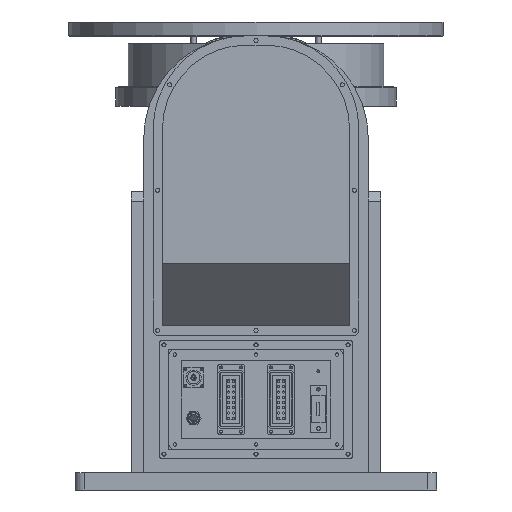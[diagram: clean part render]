
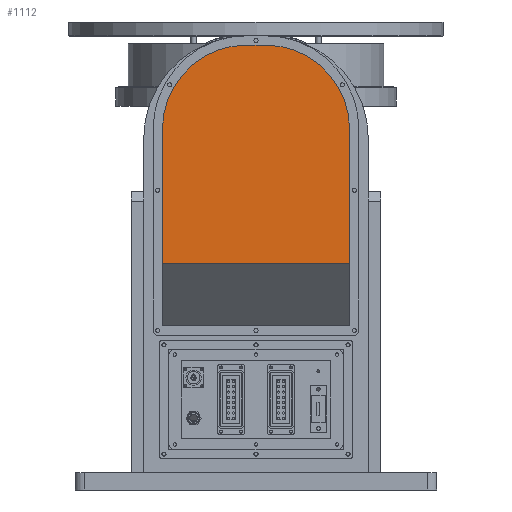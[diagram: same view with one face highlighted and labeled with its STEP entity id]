
A CAD part, left-side view. The second image highlights one B-rep face of the part: STEP entity #1112.
In plain terms, the highlighted planar face has unit normal (-1, 0, 0).
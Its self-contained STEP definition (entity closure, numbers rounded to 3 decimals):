
#87 = CIRCLE ( 'NONE', #13991, 135. ) ;
#1112 = ADVANCED_FACE ( 'NONE', ( #10183 ), #9286, .T. ) ;
#2175 = DIRECTION ( 'NONE',  ( -1., 0., 0. ) ) ;
#2719 = ORIENTED_EDGE ( 'NONE', *, *, #12111, .T. ) ;
#2913 = CARTESIAN_POINT ( 'NONE',  ( -479.864, -380.096, 1109. ) ) ;
#3139 = DIRECTION ( 'NONE',  ( 0., -1., 0. ) ) ;
#3248 = AXIS2_PLACEMENT_3D ( 'NONE', #8260, #18112, #9661 ) ;
#3476 = EDGE_CURVE ( 'NONE', #12920, #17007, #11227, .T. ) ;
#3683 = DIRECTION ( 'NONE',  ( 0., -1., 0. ) ) ;
#3723 = DIRECTION ( 'NONE',  ( -1., 0., 0. ) ) ;
#3737 = VECTOR ( 'NONE', #3139, 1000. ) ;
#3751 = VERTEX_POINT ( 'NONE', #7892 ) ;
#4060 = VERTEX_POINT ( 'NONE', #13248 ) ;
#4083 = DIRECTION ( 'NONE',  ( 0., 0., -1. ) ) ;
#4603 = DIRECTION ( 'NONE',  ( 0., 1., 0. ) ) ;
#5082 = AXIS2_PLACEMENT_3D ( 'NONE', #10702, #2175, #3683 ) ;
#5239 = LINE ( 'NONE', #18120, #8095 ) ;
#5851 = ORIENTED_EDGE ( 'NONE', *, *, #10666, .T. ) ;
#7282 = CARTESIAN_POINT ( 'NONE',  ( -479.864, -380.096, 759. ) ) ;
#7642 = CARTESIAN_POINT ( 'NONE',  ( -479.864, -380.096, 974. ) ) ;
#7892 = CARTESIAN_POINT ( 'NONE',  ( -479.864, -215.096, 1109. ) ) ;
#8095 = VECTOR ( 'NONE', #4083, 1000. ) ;
#8260 = CARTESIAN_POINT ( 'NONE',  ( -479.864, -245.096, 974. ) ) ;
#8511 = VECTOR ( 'NONE', #12786, 1000. ) ;
#8561 = VERTEX_POINT ( 'NONE', #14961 ) ;
#8825 = EDGE_CURVE ( 'NONE', #17007, #17873, #9392, .T. ) ;
#9156 = EDGE_CURVE ( 'NONE', #17873, #4060, #13123, .T. ) ;
#9264 = CARTESIAN_POINT ( 'NONE',  ( -479.864, -80.096, 759. ) ) ;
#9286 = PLANE ( 'NONE',  #5082 ) ;
#9392 = LINE ( 'NONE', #2913, #8511 ) ;
#9661 = DIRECTION ( 'NONE',  ( 0., -1., 0. ) ) ;
#9742 = ORIENTED_EDGE ( 'NONE', *, *, #9156, .T. ) ;
#10183 = FACE_OUTER_BOUND ( 'NONE', #12997, .T. ) ;
#10230 = ORIENTED_EDGE ( 'NONE', *, *, #3476, .T. ) ;
#10532 = ORIENTED_EDGE ( 'NONE', *, *, #15001, .T. ) ;
#10666 = EDGE_CURVE ( 'NONE', #8561, #12920, #5239, .T. ) ;
#10702 = CARTESIAN_POINT ( 'NONE',  ( -479.864, -230.096, 884. ) ) ;
#11083 = VECTOR ( 'NONE', #4603, 1000. ) ;
#11227 = LINE ( 'NONE', #7282, #3737 ) ;
#11709 = CARTESIAN_POINT ( 'NONE',  ( -479.864, -380.096, 759. ) ) ;
#12111 = EDGE_CURVE ( 'NONE', #3751, #8561, #87, .T. ) ;
#12161 = CARTESIAN_POINT ( 'NONE',  ( -479.864, -215.096, 974. ) ) ;
#12786 = DIRECTION ( 'NONE',  ( 0., 0., 1. ) ) ;
#12920 = VERTEX_POINT ( 'NONE', #9264 ) ;
#12997 = EDGE_LOOP ( 'NONE', ( #15010, #9742, #10532, #2719, #5851, #10230 ) ) ;
#13034 = CARTESIAN_POINT ( 'NONE',  ( -479.864, -80.096, 1109. ) ) ;
#13123 = CIRCLE ( 'NONE', #3248, 135. ) ;
#13248 = CARTESIAN_POINT ( 'NONE',  ( -479.864, -245.096, 1109. ) ) ;
#13602 = DIRECTION ( 'NONE',  ( 0., -1., 0. ) ) ;
#13991 = AXIS2_PLACEMENT_3D ( 'NONE', #12161, #3723, #13602 ) ;
#14838 = LINE ( 'NONE', #13034, #11083 ) ;
#14961 = CARTESIAN_POINT ( 'NONE',  ( -479.864, -80.096, 974. ) ) ;
#15001 = EDGE_CURVE ( 'NONE', #4060, #3751, #14838, .T. ) ;
#15010 = ORIENTED_EDGE ( 'NONE', *, *, #8825, .T. ) ;
#17007 = VERTEX_POINT ( 'NONE', #11709 ) ;
#17873 = VERTEX_POINT ( 'NONE', #7642 ) ;
#18112 = DIRECTION ( 'NONE',  ( -1., 0., 0. ) ) ;
#18120 = CARTESIAN_POINT ( 'NONE',  ( -479.864, -80.096, 1109. ) ) ;
